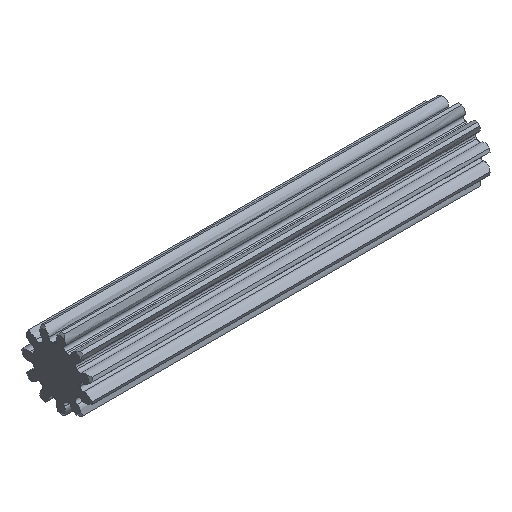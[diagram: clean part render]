
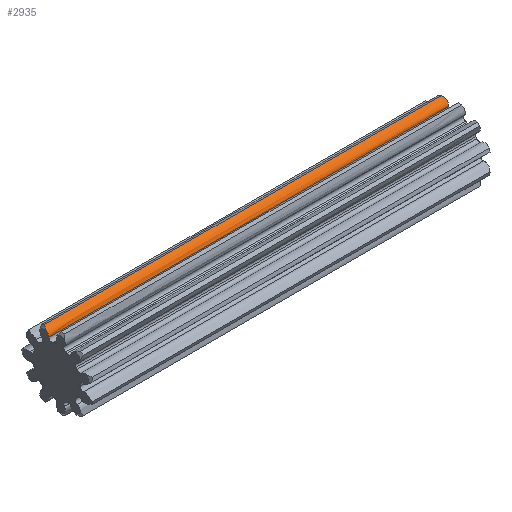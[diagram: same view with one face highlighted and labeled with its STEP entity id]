
A CAD part, isometric view. The second image highlights one B-rep face of the part: STEP entity #2935.
In plain terms, the highlighted face is a extrusion surface.
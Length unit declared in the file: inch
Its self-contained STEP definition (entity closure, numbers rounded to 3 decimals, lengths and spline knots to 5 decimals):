
#83=CARTESIAN_POINT('',(-1.5,0.08044,0.23671));
#84=CARTESIAN_POINT('',(-1.5,0.07988,0.23623));
#85=CARTESIAN_POINT('',(-1.5,0.07671,0.23345));
#86=CARTESIAN_POINT('',(-1.5,0.07162,0.22853));
#87=CARTESIAN_POINT('',(-1.5,0.06588,0.22182));
#88=CARTESIAN_POINT('',(-1.5,0.06192,0.21621));
#89=CARTESIAN_POINT('',(-1.5,0.05961,0.21221));
#90=CARTESIAN_POINT('',(-1.5,0.05845,0.20976));
#91=CARTESIAN_POINT('',(-1.5,0.05794,0.20856));
#92=CARTESIAN_POINT('',(-1.5,0.05693,0.20569));
#93=CARTESIAN_POINT('',(-1.5,0.05635,0.20189));
#94=CARTESIAN_POINT('',(-1.5,0.05649,0.19539));
#1074=CARTESIAN_POINT('',(1.5,0.08044,0.23671));
#1075=CARTESIAN_POINT('',(1.5,0.07988,0.23623));
#1076=CARTESIAN_POINT('',(1.5,0.07671,0.23345));
#1077=CARTESIAN_POINT('',(1.5,0.07162,0.22853));
#1078=CARTESIAN_POINT('',(1.5,0.06588,0.22182));
#1079=CARTESIAN_POINT('',(1.5,0.06192,0.21621));
#1080=CARTESIAN_POINT('',(1.5,0.05961,0.21221));
#1081=CARTESIAN_POINT('',(1.5,0.05845,0.20976));
#1082=CARTESIAN_POINT('',(1.5,0.05794,0.20856));
#1083=CARTESIAN_POINT('',(1.5,0.05693,0.20569));
#1084=CARTESIAN_POINT('',(1.5,0.05635,0.20189));
#1085=CARTESIAN_POINT('',(1.5,0.05649,0.19539));
#1255=CARTESIAN_POINT('',(-1.48797,0.10091,
0.25133));
#1256=CARTESIAN_POINT('',(-1.48938,0.09829,
0.24976));
#1257=CARTESIAN_POINT('',(-1.49214,0.09327,
0.24658));
#1258=CARTESIAN_POINT('',(-1.49616,0.08644,
0.24167));
#1259=CARTESIAN_POINT('',(-1.49874,0.08236,
0.23836));
#1260=CARTESIAN_POINT('',(-1.5,0.08044,0.23671));
#1262=DIRECTION('',(-1.,0.,0.));
#1263=VECTOR('',#1262,2.97594);
#1264=CARTESIAN_POINT('',(1.48797,0.10091,
0.25133));
#1265=LINE('',#1264,#1263);
#1266=CARTESIAN_POINT('',(1.5,0.08044,0.23671));
#1267=CARTESIAN_POINT('',(1.49874,0.08236,
0.23836));
#1268=CARTESIAN_POINT('',(1.49616,0.08644,
0.24167));
#1269=CARTESIAN_POINT('',(1.49214,0.09327,
0.24658));
#1270=CARTESIAN_POINT('',(1.48938,0.09829,
0.24976));
#1271=CARTESIAN_POINT('',(1.48797,0.10091,
0.25133));
#1295=DIRECTION('',(-1.,0.,0.));
#1296=VECTOR('',#1295,3.);
#1297=CARTESIAN_POINT('',(1.5,0.05649,0.19539));
#1298=LINE('',#1297,#1296);
#1815=CARTESIAN_POINT('',(-1.5,0.08044,0.23671));
#1817=VERTEX_POINT('',#1815);
#1855=CARTESIAN_POINT('',(1.5,0.08044,0.23671));
#1857=VERTEX_POINT('',#1855);
#1872=CARTESIAN_POINT('',(-1.48797,0.10091,
0.25133));
#1874=VERTEX_POINT('',#1872);
#1876=CARTESIAN_POINT('',(1.48797,0.10091,
0.25133));
#1878=VERTEX_POINT('',#1876);
#1967=CARTESIAN_POINT('',(1.5,0.05649,0.19539));
#1968=CARTESIAN_POINT('',(-1.5,0.05649,0.19539));
#1969=VERTEX_POINT('',#1967);
#1970=VERTEX_POINT('',#1968);
#2905=CARTESIAN_POINT('',(1.5,0.10156,0.25171));
#2906=CARTESIAN_POINT('',(1.5,0.10134,0.25159));
#2907=CARTESIAN_POINT('',(1.5,0.09973,0.25063));
#2908=CARTESIAN_POINT('',(1.5,0.09536,0.24794));
#2909=CARTESIAN_POINT('',(1.5,0.08795,0.24289));
#2910=CARTESIAN_POINT('',(1.5,0.07936,0.23602));
#2911=CARTESIAN_POINT('',(1.5,0.07162,0.22853));
#2912=CARTESIAN_POINT('',(1.5,0.06588,0.22182));
#2913=CARTESIAN_POINT('',(1.5,0.06192,0.21621));
#2914=CARTESIAN_POINT('',(1.5,0.05961,0.21221));
#2915=CARTESIAN_POINT('',(1.5,0.05845,0.20976));
#2916=CARTESIAN_POINT('',(1.5,0.05794,0.20856));
#2917=CARTESIAN_POINT('',(1.5,0.05693,0.20569));
#2918=CARTESIAN_POINT('',(1.5,0.05633,0.20176));
#2919=CARTESIAN_POINT('',(1.5,0.0565,0.19488));
#2920=CARTESIAN_POINT('',(1.5,0.05651,0.19462));
#2922=DIRECTION('',(1.,0.,0.));
#2923=VECTOR('',#2922,1.);
#2924=SURFACE_OF_LINEAR_EXTRUSION('',#2921,#2923);
#2925=ORIENTED_EDGE('',*,*,#2208,.F.);
#2927=ORIENTED_EDGE('',*,*,#2926,.F.);
#2928=ORIENTED_EDGE('',*,*,#2706,.F.);
#2929=ORIENTED_EDGE('',*,*,#2661,.T.);
#2931=ORIENTED_EDGE('',*,*,#2930,.T.);
#2932=ORIENTED_EDGE('',*,*,#2074,.F.);
#2933=EDGE_LOOP('',(#2925,#2927,#2928,#2929,#2931,#2932));
#2934=FACE_OUTER_BOUND('',#2933,.F.);
#2935=ADVANCED_FACE('',(#2934),#2924,.T.);
#95=B_SPLINE_CURVE_WITH_KNOTS('',3,(#83,#84,#85,#86,#87,#88,#89,#90,#91,#92,#93,
#94),.UNSPECIFIED.,.F.,.F.,(4,1,1,1,1,1,1,1,1,4),(0.,0.05978,
0.34214,0.55917,0.71568,0.8173,
0.85004,0.87193,0.88792,1.),.UNSPECIFIED.);
#1086=B_SPLINE_CURVE_WITH_KNOTS('',3,(#1074,#1075,#1076,#1077,#1078,#1079,#1080,
#1081,#1082,#1083,#1084,#1085),.UNSPECIFIED.,.F.,.F.,(4,1,1,1,1,1,1,1,1,4),
(0.,0.05978,0.34214,0.55917,0.71568,
0.8173,0.85004,0.87193,0.88792,1.),
.UNSPECIFIED.);
#1261=B_SPLINE_CURVE_WITH_KNOTS('',3,(#1255,#1256,#1257,#1258,#1259,#1260),
.UNSPECIFIED.,.F.,.F.,(4,1,1,4),(0.,0.33333,0.66667,1.),
.UNSPECIFIED.);
#1272=B_SPLINE_CURVE_WITH_KNOTS('',3,(#1266,#1267,#1268,#1269,#1270,#1271),
.UNSPECIFIED.,.F.,.F.,(4,1,1,4),(0.,0.33333,0.66667,1.),
.UNSPECIFIED.);
#2074=EDGE_CURVE('',#1817,#1970,#95,.T.);
#2208=EDGE_CURVE('',#1874,#1817,#1261,.T.);
#2661=EDGE_CURVE('',#1857,#1969,#1086,.T.);
#2706=EDGE_CURVE('',#1857,#1878,#1272,.T.);
#2921=B_SPLINE_CURVE_WITH_KNOTS('',3,(#2905,#2906,#2907,#2908,#2909,#2910,#2911,
#2912,#2913,#2914,#2915,#2916,#2917,#2918,#2919,#2920),.UNSPECIFIED.,.F.,.F.,(4,
1,1,1,1,1,1,1,1,1,1,1,1,4),(0.,0.0123,0.0927,
0.25352,0.45578,0.61846,0.7435,
0.83367,0.89221,0.91108,0.92369,
0.9329,0.99747,1.),.UNSPECIFIED.);
#2926=EDGE_CURVE('',#1878,#1874,#1265,.T.);
#2930=EDGE_CURVE('',#1969,#1970,#1298,.T.);
